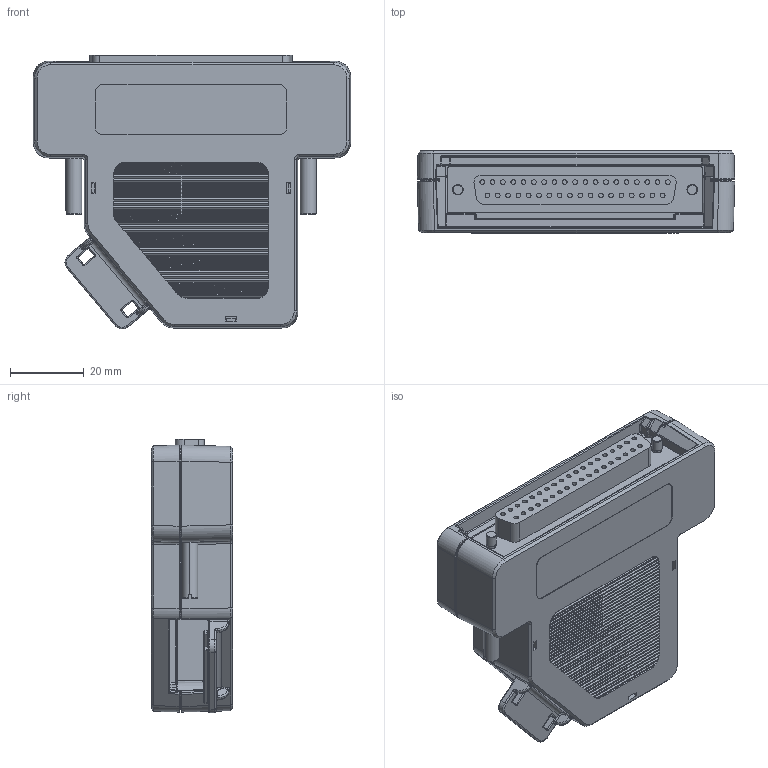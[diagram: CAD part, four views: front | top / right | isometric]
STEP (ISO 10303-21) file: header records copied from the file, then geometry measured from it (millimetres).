
FILE_DESCRIPTION((''),'2;1');
FILE_NAME('CU_NI-9923','2012-03-12T',('dkendric'),(''),'PRO/ENGINEER BY PARAMETRIC TECHNOLOGY CORPORATION, 2010230','PRO/ENGINEER BY PARAMETRIC TECHNOLOGY CORPORATION, 2010230','');
FILE_SCHEMA(('CONFIG_CONTROL_DESIGN'));
Products named in the file (1): CU_NI-9923
Bounding box: 86 x 22.2 x 74.22 mm (x, y, z)
Volume: 40942.8 mm3; surface area: 41968.9 mm2
Topology: 3 solids, 3 shells, 2556 faces, 6000 edges, 3615 vertices
Faces by surface type: cylinder 1060, plane 868, bspline 408, sphere 110, cone 58, torus 52
Entity records: 95899 total; most frequent: CARTESIAN_POINT 39541, ORIENTED_EDGE 11988, DIRECTION 11179, EDGE_CURVE 5994, AXIS2_PLACEMENT_3D 4090, VERTEX_POINT 3612, VECTOR 2999, LINE 2999
